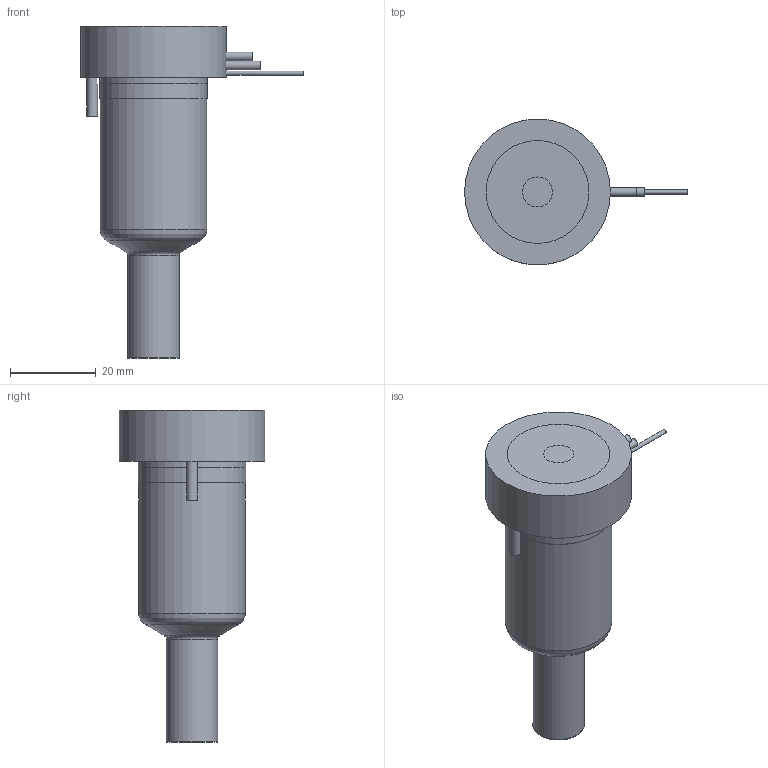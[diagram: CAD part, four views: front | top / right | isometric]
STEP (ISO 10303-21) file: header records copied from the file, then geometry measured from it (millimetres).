
FILE_DESCRIPTION(/* description */ (''),/* implementation_level */ '2;1');
FILE_NAME(/* name */ 'MXYCN16045P7F_200C_a',/* time_stamp */ '2016-02-26T15:05:31+13:00',/* author */ (''),/* organization */ (''),/* preprocessor_version */ 'ST-DEVELOPER v9',/* originating_system */ 'UGS - NX 4.0',/* authorisation */ '');
FILE_SCHEMA (('CONFIG_CONTROL_DESIGN'));
Length unit declared in the file: millimetre
Products named in the file (1): matt70754gpl
Bounding box: 51.95 x 34 x 77.39 mm (x, y, z)
Volume: 55040.6 mm3; surface area: 13809.1 mm2
Topology: 2 solids, 2 shells, 71 faces, 156 edges, 102 vertices
Faces by surface type: plane 31, cylinder 26, torus 7, cone 5, bspline 1, sphere 1
Full cylindrical faces by diameter (mm): 1 x2, 1.8 x1, 2 x2, 2.5 x1, 5 x1, 7 x1, 11.61 x1, 11.995 x2, 14.8 x1, 20.8 x1, 24.9 x1, 25 x2, 34 x1
Entity records: 2121 total; most frequent: CARTESIAN_POINT 614, DIRECTION 314, ORIENTED_EDGE 234, AXIS2_PLACEMENT_3D 141, EDGE_CURVE 117, EDGE_LOOP 114, VERTEX_POINT 91, ADVANCED_FACE 71
